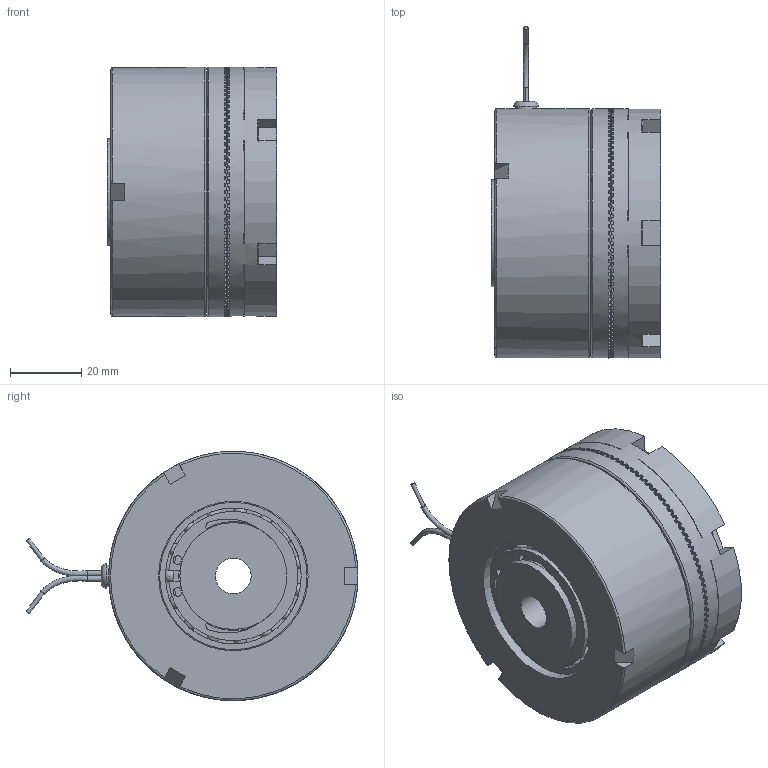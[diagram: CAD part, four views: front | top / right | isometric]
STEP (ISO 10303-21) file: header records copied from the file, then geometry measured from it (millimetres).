
FILE_DESCRIPTION(/* description */ (''),/* implementation_level */ '2;1');
FILE_NAME(/* name */ 'T:\INVENTOR\DISEGNI\07_Innesti_Elettmag_a_Dentini\07_05 ESB_Z\07_05_070_01 ESB070_Z\07_05_070_01 ESB070_Z@STEP.stp',/* time_stamp */ '2021-11-19T14:25:17+01:00',/* author */ ('w.sartori'),/* organization */ (''),/* preprocessor_version */ 'ST-DEVELOPER v18.1',/* originating_system */ 'Autodesk Inventor 2021',/* authorisation */ '');
FILE_SCHEMA (('AUTOMOTIVE_DESIGN { 1 0 10303 214 3 1 1 }'));
Products named in the file (1): 07_05_070_01 ESB070_Z
Bounding box: 47.5 x 93.22 x 70 mm (x, y, z)
Volume: 153926.1 mm3; surface area: 48892.9 mm2
Topology: 2 solids, 8 shells, 1447 faces, 4437 edges, 2894 vertices
Faces by surface type: plane 1149, cylinder 126, torus 78, bspline 41, sphere 30, cone 23
Full cylindrical faces by diameter (mm): 1.154 x2, 2 x2, 2.2 x3, 2.459 x6, 2.5 x2, 4 x39, 4.5 x3, 6 x4, 6.5 x3, 10 x1, 25 x1, 26 x2, 28.6 x1, 30 x5, 33.5 x1, 33.84 x4, 34 x1, 38.16 x4, 41.5 x1, 42 x4, 47 x1, 49 x1, 55 x1, 62.5 x1, 64.5 x2, 65 x3, 70 x3
Entity records: 58058 total; most frequent: CARTESIAN_POINT 15645, DIRECTION 9508, ORIENTED_EDGE 8748, EDGE_CURVE 4374, AXIS2_PLACEMENT_3D 4085, VERTEX_POINT 2894, EDGE_LOOP 1600, FACE_OUTER_BOUND 1447
